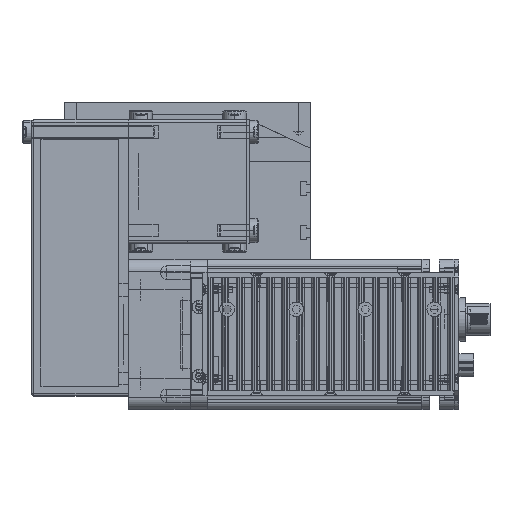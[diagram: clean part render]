
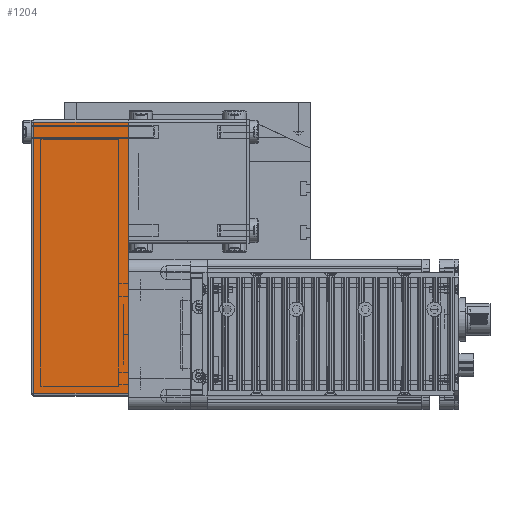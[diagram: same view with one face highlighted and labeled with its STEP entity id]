
A CAD part, top view. The second image highlights one B-rep face of the part: STEP entity #1204.
In plain terms, the highlighted planar face has unit normal (0, 0, 1) as drawn and (0, 1, 0) by its records, which use the part's own axes.
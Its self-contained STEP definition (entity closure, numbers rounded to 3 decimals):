
#999 = EDGE_LOOP ( 'NONE', ( #1103, #1009, #1219, #1208 ) ) ;
#1009 = ORIENTED_EDGE ( 'NONE', *, *, #1061, .F. ) ;
#1061 = EDGE_CURVE ( 'NONE', #46479, #46413, #6895, .T. ) ;
#1103 = ORIENTED_EDGE ( 'NONE', *, *, #46431, .F. ) ;
#1202 = EDGE_CURVE ( 'NONE', #46194, #46446, #7189, .T. ) ;
#1204 = ADVANCED_FACE ( 'NONE', ( #7125 ), #7132, .F. ) ;
#1208 = ORIENTED_EDGE ( 'NONE', *, *, #1202, .T. ) ;
#1219 = ORIENTED_EDGE ( 'NONE', *, *, #46641, .F. ) ;
#6894 = CARTESIAN_POINT ( 'NONE',  ( -50., 25., 38.5 ) ) ;
#6895 = LINE ( 'NONE', #6894, #6957 ) ;
#6956 = DIRECTION ( 'NONE',  ( -1., 0., 0. ) ) ;
#6957 = VECTOR ( 'NONE', #6956, 1000. ) ;
#7125 = FACE_OUTER_BOUND ( 'NONE', #999, .T. ) ;
#7132 = PLANE ( 'NONE',  #7180 ) ;
#7140 = DIRECTION ( 'NONE',  ( 0., -1., 0. ) ) ;
#7180 = AXIS2_PLACEMENT_3D ( 'NONE', #7193, #7140, #7185 ) ;
#7185 = DIRECTION ( 'NONE',  ( 0., 0., -1. ) ) ;
#7186 = DIRECTION ( 'NONE',  ( -1., 0., 0. ) ) ;
#7187 = VECTOR ( 'NONE', #7186, 1000. ) ;
#7188 = CARTESIAN_POINT ( 'NONE',  ( -50., 25., 0. ) ) ;
#7189 = LINE ( 'NONE', #7188, #7187 ) ;
#7193 = CARTESIAN_POINT ( 'NONE',  ( -50., 25., 39.5 ) ) ;
#28915 = CARTESIAN_POINT ( 'NONE',  ( 61., 25., 0. ) ) ;
#29337 = CARTESIAN_POINT ( 'NONE',  ( -49., 25., 39.5 ) ) ;
#29338 = LINE ( 'NONE', #29337, #29395 ) ;
#29339 = CARTESIAN_POINT ( 'NONE',  ( -49., 25., 0. ) ) ;
#29365 = CARTESIAN_POINT ( 'NONE',  ( -49., 25., 38.5 ) ) ;
#29394 = DIRECTION ( 'NONE',  ( 0., 0., -1. ) ) ;
#29395 = VECTOR ( 'NONE', #29394, 1000. ) ;
#29434 = CARTESIAN_POINT ( 'NONE',  ( 61., 25., 38.5 ) ) ;
#29758 = DIRECTION ( 'NONE',  ( 0., 0., 1. ) ) ;
#29759 = VECTOR ( 'NONE', #29758, 1000. ) ;
#29760 = CARTESIAN_POINT ( 'NONE',  ( 61., 25., 39.5 ) ) ;
#29762 = LINE ( 'NONE', #29760, #29759 ) ;
#46194 = VERTEX_POINT ( 'NONE', #28915 ) ;
#46413 = VERTEX_POINT ( 'NONE', #29365 ) ;
#46431 = EDGE_CURVE ( 'NONE', #46413, #46446, #29338, .T. ) ;
#46446 = VERTEX_POINT ( 'NONE', #29339 ) ;
#46479 = VERTEX_POINT ( 'NONE', #29434 ) ;
#46641 = EDGE_CURVE ( 'NONE', #46194, #46479, #29762, .T. ) ;
